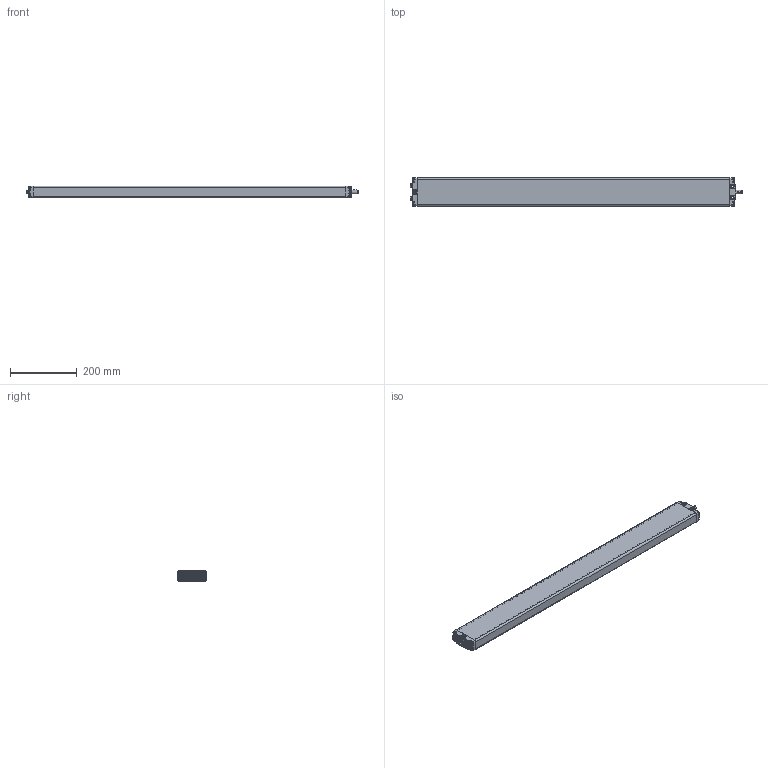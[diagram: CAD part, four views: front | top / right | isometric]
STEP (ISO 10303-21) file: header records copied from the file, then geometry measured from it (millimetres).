
FILE_DESCRIPTION(/* description */ ('Unknown'),/* implementation_level */ '2;1');
FILE_NAME(/* name */ '100.20007 Pumpe PA 2870 W',/* time_stamp */ '2016-08-09T10:49:06+02:00',/* author */ ('Unknown'),/* organization */ ('Unknown'),/* preprocessor_version */ 'ST-DEVELOPER v16.7',/* originating_system */ 'DEX',/* authorisation */ $);
FILE_SCHEMA (('AUTOMOTIVE_DESIGN {1 0 10303 214 3 1 1}'));
Products named in the file (13): 100.20007; 115.00039; 125.00045; 115.00008; 142.00021; 125.00021; 142.00013; 125.00149; 122.00040; 126.00002; 119.00028; 126.00001; 142.00057
Assembly tree (20 placements, depth 3):
  100.20007
    115.00039  x2
      125.00045
      115.00008
      142.00021
      125.00021
    142.00013  x8
    125.00149
    122.00040
    126.00002
    119.00028
    126.00001
    142.00057
Bounding box: 998.47 x 85 x 35 mm (x, y, z)
Volume: 884480.8 mm3; surface area: 520684.5 mm2
Topology: 20 solids, 20 shells, 1902 faces, 4389 edges, 2487 vertices
Faces by surface type: plane 554, bspline 477, cylinder 436, cone 285, torus 104, sphere 46
Full cylindrical faces by diameter (mm): 3.5 x2, 4.1 x2, 4.2 x2, 5 x8, 6.917 x4, 8 x5, 9.8 x8, 10 x3, 10.4 x1, 14 x1, 14.4 x2, 17.3 x2, 17.9 x4, 18 x1, 19 x1
Entity records: 64745 total; most frequent: CARTESIAN_POINT 37610, ORIENTED_EDGE 5746, DIRECTION 4625, EDGE_CURVE 2873, AXIS2_PLACEMENT_3D 1895, VERTEX_POINT 1746, FACE_BOUND 1459, EDGE_LOOP 1458
